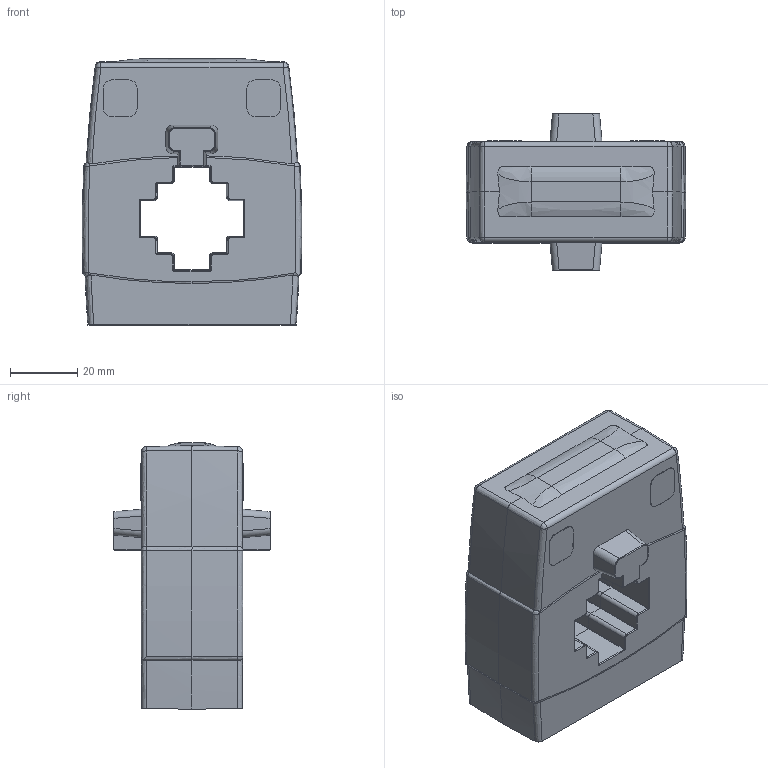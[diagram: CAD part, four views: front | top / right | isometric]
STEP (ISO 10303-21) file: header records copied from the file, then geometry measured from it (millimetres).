
FILE_DESCRIPTION(/* description */ (''),/* implementation_level */ '2;1');
FILE_NAME(/* name */ 'ENT.A30 MN_ICIDOLU_x_t.stp',/* time_stamp */ '2021-03-18T11:11:12+03:00',/* author */ (''),/* organization */ (''),/* preprocessor_version */ 'ST-DEVELOPER v16',/* originating_system */ 'SIEMENS PLM Software NX 11.0',/* authorisation */ '');
FILE_SCHEMA (('AUTOMOTIVE_DESIGN { 1 0 10303 214 3 1 1 1 }'));
Length unit declared in the file: millimetre
Products named in the file (1): ENT.A30 MN_ICIDOLU_x_t
Bounding box: 65.4 x 46.93 x 79.35 mm (x, y, z)
Volume: 130878.1 mm3; surface area: 20870.7 mm2
Topology: 1 solids, 1 shells, 329 faces, 817 edges, 484 vertices
Faces by surface type: cylinder 131, plane 87, bspline 75, revolution 24, cone 12
Entity records: 10786 total; most frequent: CARTESIAN_POINT 3955, ORIENTED_EDGE 1622, DIRECTION 1128, EDGE_CURVE 811, VERTEX_POINT 484, AXIS2_PLACEMENT_3D 416, B_SPLINE_CURVE_WITH_KNOTS 336, EDGE_LOOP 335
